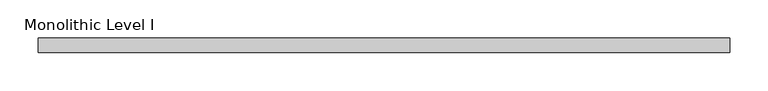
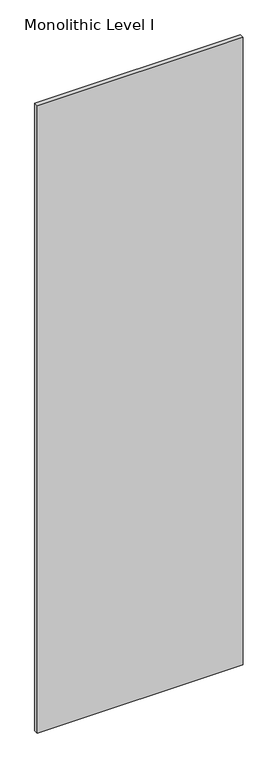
"""IFC4 building model written with IfcOpenShell, lengths in millimetres: proxy geometry, Panel-Fascia-Teknion-Altos-Standard : Monolithic Level I."""

from ifc_helpers import new_model, si_unit, frame, origin, place, context, project, spatial, polyline, outline, extrude, source, transform, mapped, element, save


def monolithic_level_i_d7025d32(model_context):
    return source(origin(), model_context, "Body", "SweptSolid", [
        extrude(outline(polyline([(454.025, 9.525), (454.025, -9.525), (-454.025, -9.525), (-454.025, 9.525), (454.025, 9.525)])), frame((0.0, 0.0, 3.175), z_axis=(0.0, 0.0, 1.0), x_axis=(1.0, 0.0, 0.0)), (0.0, 0.0, 1.0), 2928.493),
    ])


if __name__ == "__main__":
    model = new_model("IFC4")
    model_context = context("Model", 3, world=origin())
    ifc_project = project(units=[si_unit("LENGTHUNIT", "METRE", prefix="MILLI")], contexts=[model_context])
    site = spatial("IfcSite", under=ifc_project)
    building = spatial("IfcBuilding", under=site)
    placement = place(None, origin())
    monolithic_level_i_shape = monolithic_level_i_d7025d32(model_context)
    element("IfcBuildingElementProxy", 1, Name="Panel-Fascia-Teknion-Altos-Standard : Monolithic Level I", ObjectType="Panel-Fascia-Teknion-Altos-Standard : Monolithic Level I", at=placement, inside=building, context=model_context, shape_type="MappedRepresentation", body=[
        mapped(monolithic_level_i_shape, transform((0.0, 0.0, 0.0), x_axis=(1.0, 0.0, 0.0), y_axis=(0.0, 1.0, 0.0), z_axis=(0.0, 0.0, 1.0))),
    ])
    save(model, "model.ifc")
